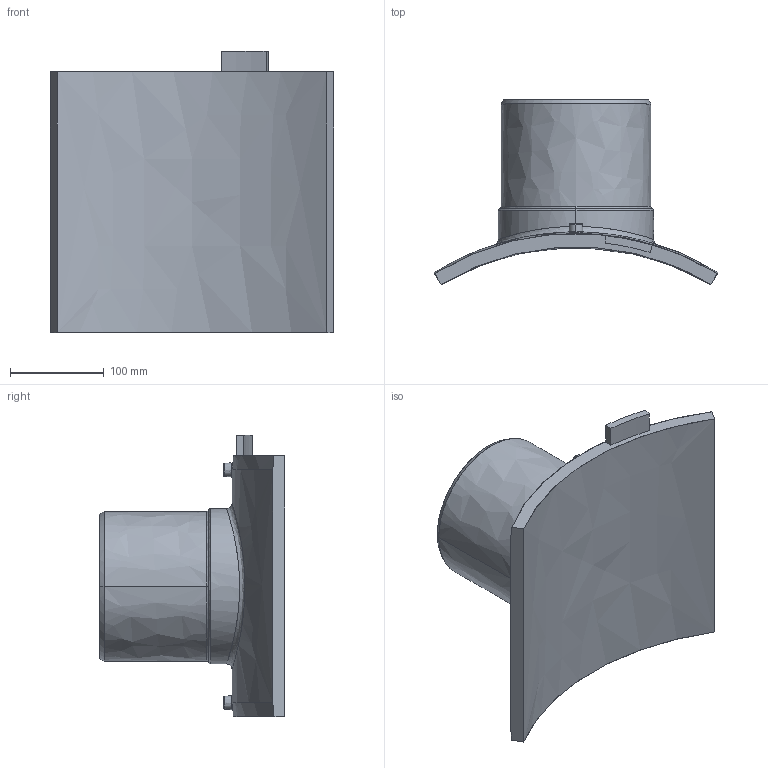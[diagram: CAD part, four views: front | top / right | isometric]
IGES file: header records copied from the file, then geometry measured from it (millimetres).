
Start section:  PTC IGES file: sa-uni_d560_160_01.igs
Global section: file name: sa-uni_d560_160_01.igs; native system: Pro/ENGINEER by Parametric Technology Corporation; preprocessor: 2011490; author: MikulicP; organization: Unknown; date: 20170207.085424; units: millimetre
Bounding box: 303.46 x 197.97 x 301 mm (x, y, z)
Surface area: 335756.6 mm2 (no closed solid volume)
Topology: 0 solids, 0 shells, 202 faces, 994 edges, 992 vertices
Faces by surface type: bspline 202
